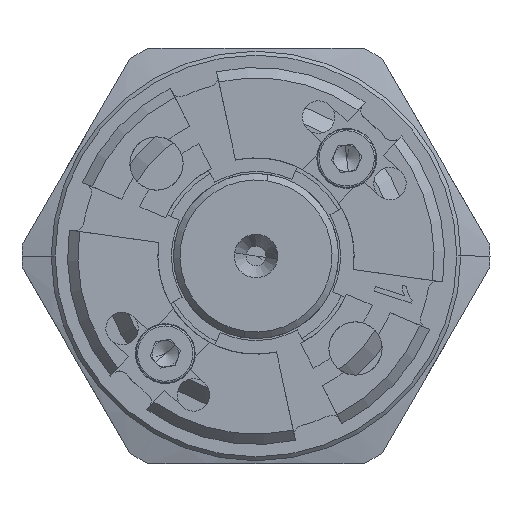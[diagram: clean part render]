
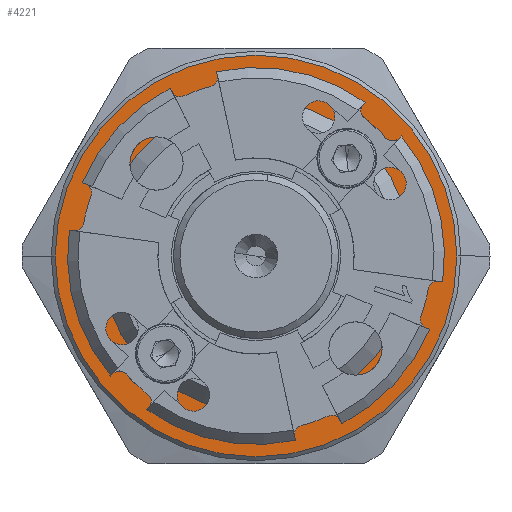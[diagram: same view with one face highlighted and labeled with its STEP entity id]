
A CAD part, front view. The second image highlights one B-rep face of the part: STEP entity #4221.
In plain terms, the highlighted planar face has unit normal (0, -1, 0).
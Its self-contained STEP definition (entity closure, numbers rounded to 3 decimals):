
#1181 = CARTESIAN_POINT ( 'NONE',  ( 0., -9.5, 0. ) ) ;
#1352 = EDGE_CURVE ( 'NONE', #4365, #3855, #18178, .T. ) ;
#1858 = DIRECTION ( 'NONE',  ( 0., -1., 0. ) ) ;
#2191 = FACE_BOUND ( 'NONE', #11403, .T. ) ;
#2280 = EDGE_LOOP ( 'NONE', ( #22000, #16533 ) ) ;
#3035 = PLANE ( 'NONE',  #23895 ) ;
#3855 = VERTEX_POINT ( 'NONE', #11651 ) ;
#4221 = ADVANCED_FACE ( 'NONE', ( #6542, #2191 ), #3035, .F. ) ;
#4365 = VERTEX_POINT ( 'NONE', #16610 ) ;
#4439 = CARTESIAN_POINT ( 'NONE',  ( 15.45, -9.5, 0. ) ) ;
#4837 = CIRCLE ( 'NONE', #17441, 11.9 ) ;
#4911 = DIRECTION ( 'NONE',  ( 0., 1., 0. ) ) ;
#5001 = DIRECTION ( 'NONE',  ( 0., -1., 0. ) ) ;
#5286 = EDGE_CURVE ( 'NONE', #21859, #10283, #16954, .T. ) ;
#5583 = CIRCLE ( 'NONE', #6201, 15.45 ) ;
#6201 = AXIS2_PLACEMENT_3D ( 'NONE', #16112, #5001, #17955 ) ;
#6542 = FACE_OUTER_BOUND ( 'NONE', #2280, .T. ) ;
#6612 = AXIS2_PLACEMENT_3D ( 'NONE', #22150, #11081, #24004 ) ;
#9606 = ORIENTED_EDGE ( 'NONE', *, *, #18453, .F. ) ;
#10283 = VERTEX_POINT ( 'NONE', #16045 ) ;
#10479 = DIRECTION ( 'NONE',  ( 0., -1., 0. ) ) ;
#11081 = DIRECTION ( 'NONE',  ( 0., -1., 0. ) ) ;
#11403 = EDGE_LOOP ( 'NONE', ( #9606, #18647 ) ) ;
#11651 = CARTESIAN_POINT ( 'NONE',  ( 11.9, -9.5, 0. ) ) ;
#12671 = AXIS2_PLACEMENT_3D ( 'NONE', #21582, #10479, #23408 ) ;
#12976 = CARTESIAN_POINT ( 'NONE',  ( 0., -9.5, 0. ) ) ;
#14855 = DIRECTION ( 'NONE',  ( 1., 0., 0. ) ) ;
#16045 = CARTESIAN_POINT ( 'NONE',  ( -15.45, -9.5, 0. ) ) ;
#16112 = CARTESIAN_POINT ( 'NONE',  ( 0., -9.5, 0. ) ) ;
#16533 = ORIENTED_EDGE ( 'NONE', *, *, #5286, .T. ) ;
#16610 = CARTESIAN_POINT ( 'NONE',  ( -11.9, -9.5, 0. ) ) ;
#16954 = CIRCLE ( 'NONE', #12671, 15.45 ) ;
#17441 = AXIS2_PLACEMENT_3D ( 'NONE', #12976, #1858, #14855 ) ;
#17880 = DIRECTION ( 'NONE',  ( -1., 0., 0. ) ) ;
#17955 = DIRECTION ( 'NONE',  ( -1., 0., 0. ) ) ;
#18178 = CIRCLE ( 'NONE', #6612, 11.9 ) ;
#18453 = EDGE_CURVE ( 'NONE', #3855, #4365, #4837, .T. ) ;
#18647 = ORIENTED_EDGE ( 'NONE', *, *, #1352, .F. ) ;
#21582 = CARTESIAN_POINT ( 'NONE',  ( 0., -9.5, 0. ) ) ;
#21859 = VERTEX_POINT ( 'NONE', #4439 ) ;
#22000 = ORIENTED_EDGE ( 'NONE', *, *, #23029, .T. ) ;
#22150 = CARTESIAN_POINT ( 'NONE',  ( 0., -9.5, 0. ) ) ;
#23029 = EDGE_CURVE ( 'NONE', #10283, #21859, #5583, .T. ) ;
#23408 = DIRECTION ( 'NONE',  ( -1., 0., 0. ) ) ;
#23895 = AXIS2_PLACEMENT_3D ( 'NONE', #1181, #4911, #17880 ) ;
#24004 = DIRECTION ( 'NONE',  ( 1., 0., 0. ) ) ;
